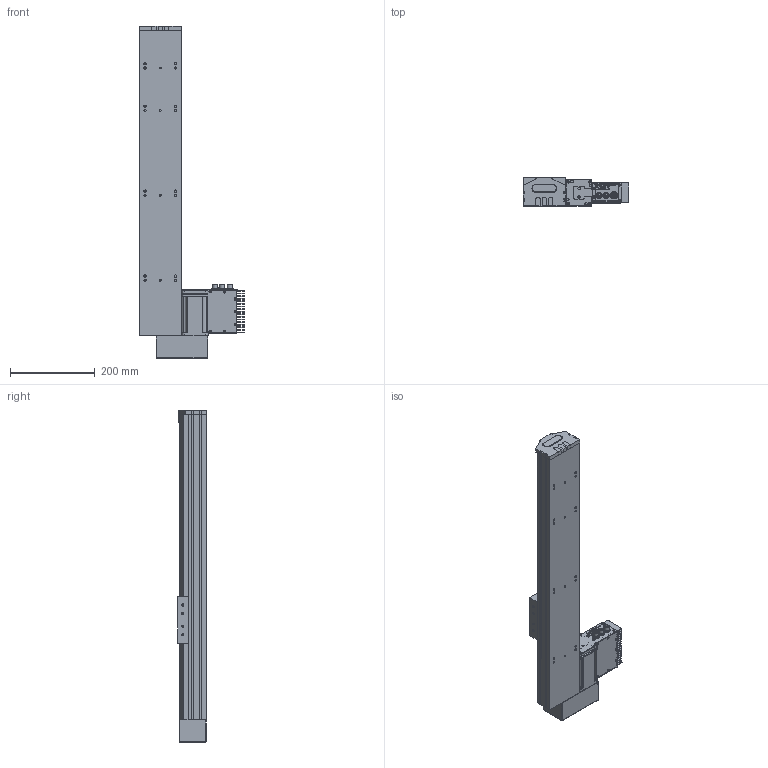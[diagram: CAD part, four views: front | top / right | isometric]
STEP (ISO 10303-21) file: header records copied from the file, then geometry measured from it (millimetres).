
FILE_DESCRIPTION (( 'STEP AP203' ), '1' );
FILE_NAME ('S 10 TSH BR S500.STEP', '2012-09-04T13:27:20', ( 'Conseil Régional Haute-Normandie' ), ( 'Conseil Régional Haute-Normandie' ), 'SwSTEP 2.0', 'SolidWorks 2010', '' );
FILE_SCHEMA (( 'CONFIG_CONTROL_DESIGN' ));
Length unit declared in the file: millimetre
Products named in the file (25): remplir_Default; Pièce2_Default; BU45 Carte d''axe A11_5; Colonnette_3; Moteur 60BLDC90A_3; Sub D 9cts 90_X2_00B_X0__3; Radiateur profil_X2_00E9_X0_ 100x25_3; renvoie LH2_Default; Vis TF 3 torkx; S 10 TSH BR S500; axe720_Default; piece_plastique remplieTSH_Default; embout_modifié; palette tbn2; Assem1_7; T_X2_00F4_X0_le contre le moteur_5; BU41 Carte Alimentation P05_3; Couvercle_3; T_X2_00F4_X0_le fond_3; Connecteur rond D10 3cts_5; Connecteur rond D12 4cts_5; Colonnette ronde_3; T_X2_00F4_X0_le Arri_X2_00E8_X0_re_5; T_X2_00F4_X0_le lat_X2_00E9_X0_rale_5; Vis TF 3 torkx_1_1
Assembly tree (55 placements, depth 3):
  S 10 TSH BR S500
    axe720_Default
    Assem1_7
      T_X2_00F4_X0_le contre le moteur_5
      Radiateur profil_X2_00E9_X0_ 100x25_3
      Vis TF 3 torkx_1_1  x21
      BU41 Carte Alimentation P05_3
      T_X2_00F4_X0_le lat_X2_00E9_X0_rale_5  x2
      Colonnette_3  x2
      T_X2_00F4_X0_le Arri_X2_00E8_X0_re_5
      Connecteur rond D12 4cts_5
      Moteur 60BLDC90A_3
      Couvercle_3
      Connecteur rond D10 3cts_5  x2
      Sub D 9cts 90_X2_00B_X0__3
      Colonnette ronde_3
      BU45 Carte d''axe A11_5
      T_X2_00F4_X0_le fond_3
    renvoie LH2_Default
    Vis TF 3 torkx  x7
    palette tbn2
    piece_plastique remplieTSH_Default
      remplir_Default  x3
      embout_modifié
      Pièce2_Default
Bounding box: 249.35 x 66.83 x 782 mm (x, y, z)
Volume: 4463687.3 mm3; surface area: 658723 mm2
Topology: 53 solids, 53 shells, 1974 faces, 5026 edges, 3270 vertices
Faces by surface type: plane 924, cylinder 879, cone 164, sphere 4, torus 3
Entity records: 38817 total; most frequent: CARTESIAN_POINT 6502, DIRECTION 6333, ORIENTED_EDGE 5744, EDGE_CURVE 2872, AXIS2_PLACEMENT_3D 2326, VERTEX_POINT 1882, LINE 1681, VECTOR 1681
